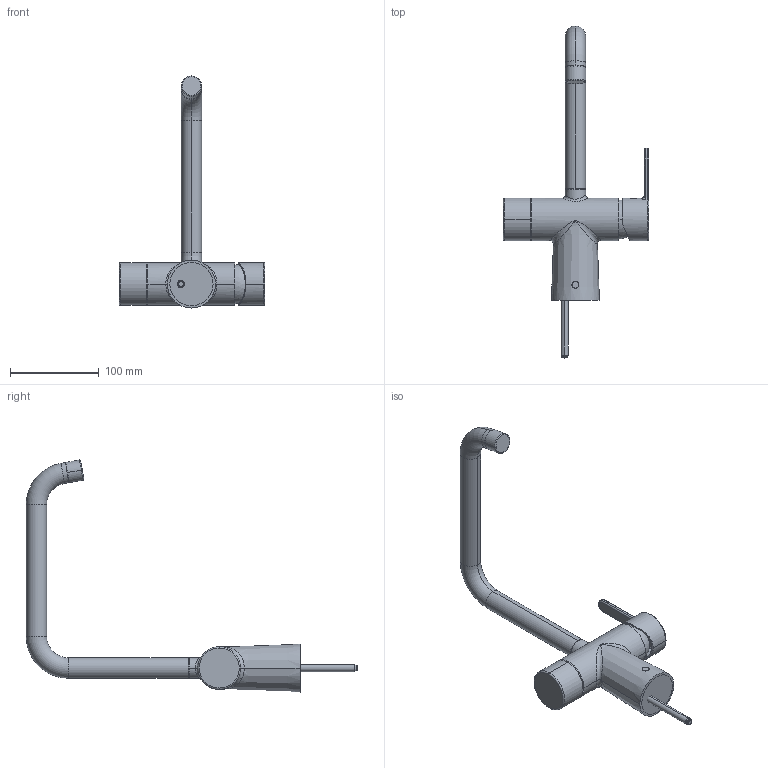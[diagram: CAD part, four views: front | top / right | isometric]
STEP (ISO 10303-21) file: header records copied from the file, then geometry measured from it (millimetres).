
FILE_DESCRIPTION((''),'2;1');
FILE_NAME('74062--00_1','2020-09-03T15:54:48',('majo1'),(''),'CREO PARAMETRIC BY PTC INC, 2018190','CREO PARAMETRIC BY PTC INC, 2018190','');
FILE_SCHEMA(('CONFIG_CONTROL_DESIGN'));
Length unit declared in the file: millimetre
Products named in the file (1): 74062--00_1
Bounding box: 163.71 x 373.32 x 261.2 mm (x, y, z)
Surface area: 87929.7 mm2 (no closed solid volume)
Topology: 0 solids, 36 shells, 206 faces, 841 edges, 658 vertices
Faces by surface type: cylinder 66, bspline 53, plane 41, torus 28, cone 14, sphere 4
Entity records: 13103 total; most frequent: CARTESIAN_POINT 6722, ORIENTED_EDGE 1198, DIRECTION 1182, EDGE_CURVE 837, VERTEX_POINT 658, VECTOR 482, LINE 482, AXIS2_PLACEMENT_3D 350
